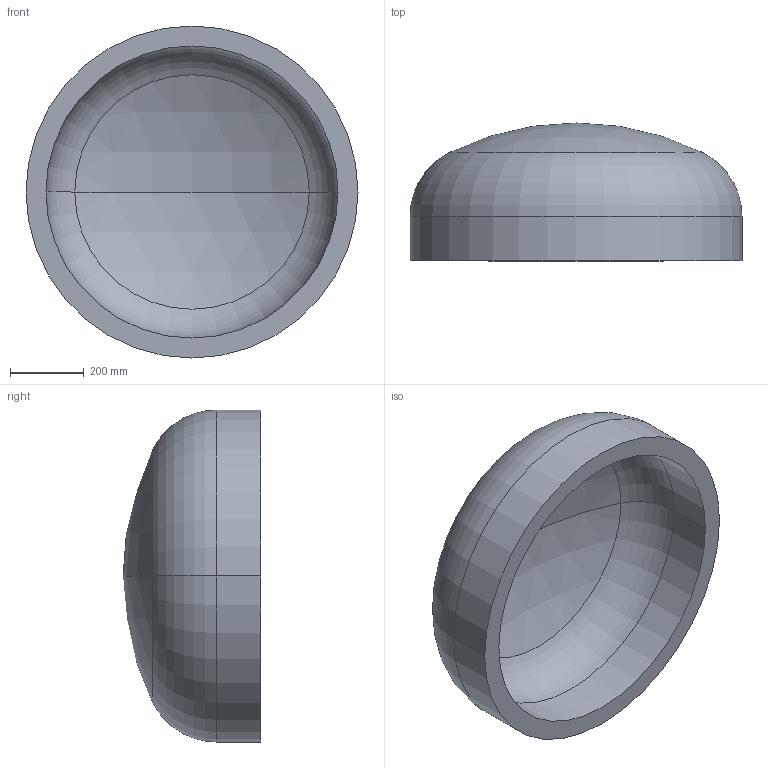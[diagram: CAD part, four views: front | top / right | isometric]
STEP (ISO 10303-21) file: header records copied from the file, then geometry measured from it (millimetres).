
FILE_DESCRIPTION (( 'STEP AP203' ), '1' );
FILE_NAME ('DIN 28013 Korbbogenform_-_Boden DIN 28013 - 900 x 120 - I - s=54.step', '2016-07-01T08:33:48', ( '' ), ( '' ), 'SwSTEP 2.0', 'SolidWorks 2013', '' );
FILE_SCHEMA (( 'CONFIG_CONTROL_DESIGN' ));
Length unit declared in the file: millimetre
Products named in the file (1): DIN 28013 Korbbogenform_-_Boden DIN 28013 - 900 x 120 - I - s=54
Bounding box: 900 x 373.55 x 900 mm (x, y, z)
Volume: 61389997.9 mm3; surface area: 2423331 mm2
Topology: 1 solids, 1 shells, 13 faces, 24 edges, 14 vertices
Faces by surface type: torus 4, cylinder 4, sphere 4, plane 1
Entity records: 407 total; most frequent: DIRECTION 72, CARTESIAN_POINT 52, ORIENTED_EDGE 48, AXIS2_PLACEMENT_3D 34, EDGE_CURVE 24, CIRCLE 20, EDGE_LOOP 14, VERTEX_POINT 14
